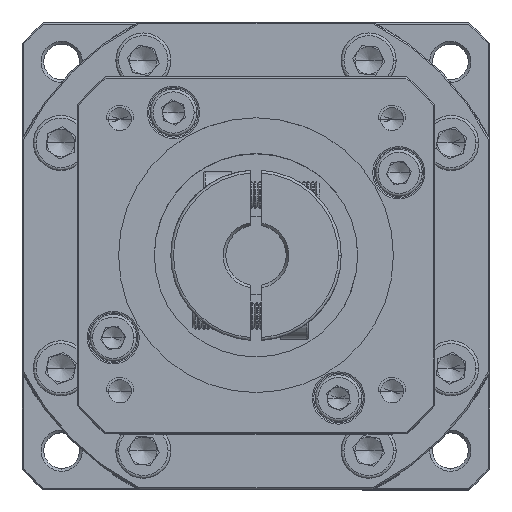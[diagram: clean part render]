
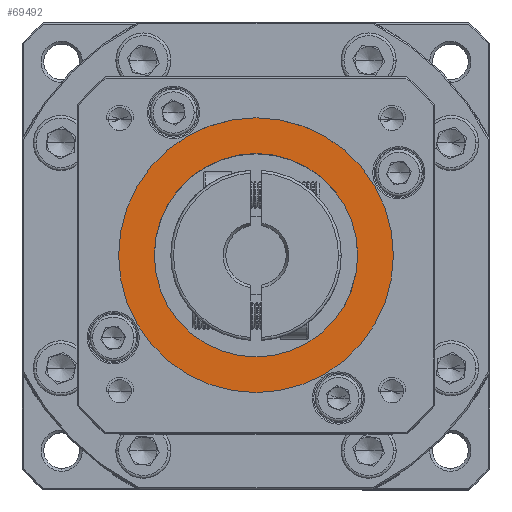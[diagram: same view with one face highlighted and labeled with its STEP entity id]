
A CAD part, top view. The second image highlights one B-rep face of the part: STEP entity #69492.
In plain terms, the highlighted planar face has unit normal (0, 0, 1).
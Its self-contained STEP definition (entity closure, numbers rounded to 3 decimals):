
#7483 = DIRECTION ( 'NONE',  ( 1., 0., 0. ) ) ;
#9257 = FACE_BOUND ( 'NONE', #102380, .T. ) ;
#19107 = AXIS2_PLACEMENT_3D ( 'NONE', #132709, #70015, #7483 ) ;
#19739 = CIRCLE ( 'NONE', #69142, 25. ) ;
#29348 = DIRECTION ( 'NONE',  ( 1., 0., 0. ) ) ;
#42564 = EDGE_LOOP ( 'NONE', ( #125048, #89990 ) ) ;
#43174 = VERTEX_POINT ( 'NONE', #73143 ) ;
#48540 = EDGE_CURVE ( 'NONE', #92889, #68937, #60711, .T. ) ;
#56021 = CARTESIAN_POINT ( 'NONE',  ( -67.417, 52.772, 13.599 ) ) ;
#57348 = DIRECTION ( 'NONE',  ( 0., 0., -1. ) ) ;
#59622 = EDGE_CURVE ( 'NONE', #43174, #91113, #132459, .T. ) ;
#60324 = DIRECTION ( 'NONE',  ( 0., 0., 1. ) ) ;
#60711 = CIRCLE ( 'NONE', #97672, 25. ) ;
#61698 = CARTESIAN_POINT ( 'NONE',  ( -67.417, 52.772, 13.599 ) ) ;
#63832 = EDGE_CURVE ( 'NONE', #68937, #92889, #19739, .T. ) ;
#68937 = VERTEX_POINT ( 'NONE', #134701 ) ;
#69142 = AXIS2_PLACEMENT_3D ( 'NONE', #91581, #60324, #133625 ) ;
#69492 = ADVANCED_FACE ( 'NONE', ( #81216, #9257 ), #93361, .T. ) ;
#70015 = DIRECTION ( 'NONE',  ( 0., 0., -1. ) ) ;
#70389 = AXIS2_PLACEMENT_3D ( 'NONE', #56021, #57348, #78925 ) ;
#72683 = CIRCLE ( 'NONE', #19107, 18.5 ) ;
#73143 = CARTESIAN_POINT ( 'NONE',  ( -48.917, 52.772, 13.599 ) ) ;
#78925 = DIRECTION ( 'NONE',  ( 1., 0., 0. ) ) ;
#80619 = DIRECTION ( 'NONE',  ( 0., 0., 1. ) ) ;
#81216 = FACE_OUTER_BOUND ( 'NONE', #42564, .T. ) ;
#81541 = CARTESIAN_POINT ( 'NONE',  ( -67.417, 52.772, 13.599 ) ) ;
#89668 = CARTESIAN_POINT ( 'NONE',  ( -85.917, 52.772, 13.599 ) ) ;
#89990 = ORIENTED_EDGE ( 'NONE', *, *, #48540, .T. ) ;
#91113 = VERTEX_POINT ( 'NONE', #89668 ) ;
#91581 = CARTESIAN_POINT ( 'NONE',  ( -67.417, 52.772, 13.599 ) ) ;
#92889 = VERTEX_POINT ( 'NONE', #98683 ) ;
#93361 = PLANE ( 'NONE',  #115483 ) ;
#97672 = AXIS2_PLACEMENT_3D ( 'NONE', #81541, #80619, #133225 ) ;
#98683 = CARTESIAN_POINT ( 'NONE',  ( -92.417, 52.772, 13.599 ) ) ;
#98950 = EDGE_CURVE ( 'NONE', #91113, #43174, #72683, .T. ) ;
#102380 = EDGE_LOOP ( 'NONE', ( #125005, #120374 ) ) ;
#115483 = AXIS2_PLACEMENT_3D ( 'NONE', #61698, #134960, #29348 ) ;
#120374 = ORIENTED_EDGE ( 'NONE', *, *, #98950, .T. ) ;
#125005 = ORIENTED_EDGE ( 'NONE', *, *, #59622, .T. ) ;
#125048 = ORIENTED_EDGE ( 'NONE', *, *, #63832, .T. ) ;
#132459 = CIRCLE ( 'NONE', #70389, 18.5 ) ;
#132709 = CARTESIAN_POINT ( 'NONE',  ( -67.417, 52.772, 13.599 ) ) ;
#133225 = DIRECTION ( 'NONE',  ( 1., 0., 0. ) ) ;
#133625 = DIRECTION ( 'NONE',  ( 1., 0., 0. ) ) ;
#134701 = CARTESIAN_POINT ( 'NONE',  ( -42.417, 52.772, 13.599 ) ) ;
#134960 = DIRECTION ( 'NONE',  ( 0., 0., 1. ) ) ;
